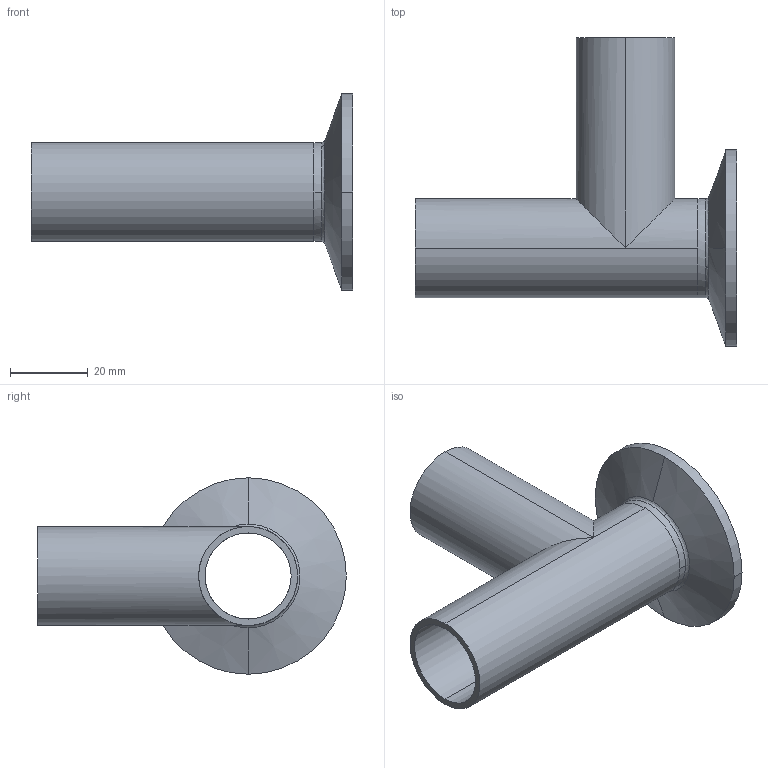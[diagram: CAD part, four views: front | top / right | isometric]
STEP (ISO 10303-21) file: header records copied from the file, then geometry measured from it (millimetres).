
FILE_DESCRIPTION (( 'STEP AP214' ), '1' );
FILE_NAME ('TE7WCSW6L1.0-...STEP', '2016-05-24T11:41:33', ( 'eran' ), ( '' ), 'SwSTEP 2.0', 'SolidWorks 2016', '' );
FILE_SCHEMA (( 'AUTOMOTIVE_DESIGN' ));
Length unit declared in the file: millimetre
Products named in the file (1): TE7WCSW6L1.0-..
Bounding box: 82.6 x 79.2 x 50.39 mm (x, y, z)
Volume: 22022.1 mm3; surface area: 21716.3 mm2
Topology: 2 solids, 2 shells, 38 faces, 94 edges, 60 vertices
Faces by surface type: cylinder 16, bspline 10, plane 6, cone 6
Entity records: 1707 total; most frequent: CARTESIAN_POINT 757, DIRECTION 202, ORIENTED_EDGE 188, EDGE_CURVE 94, AXIS2_PLACEMENT_3D 89, CIRCLE 60, VERTEX_POINT 60, EDGE_LOOP 44
